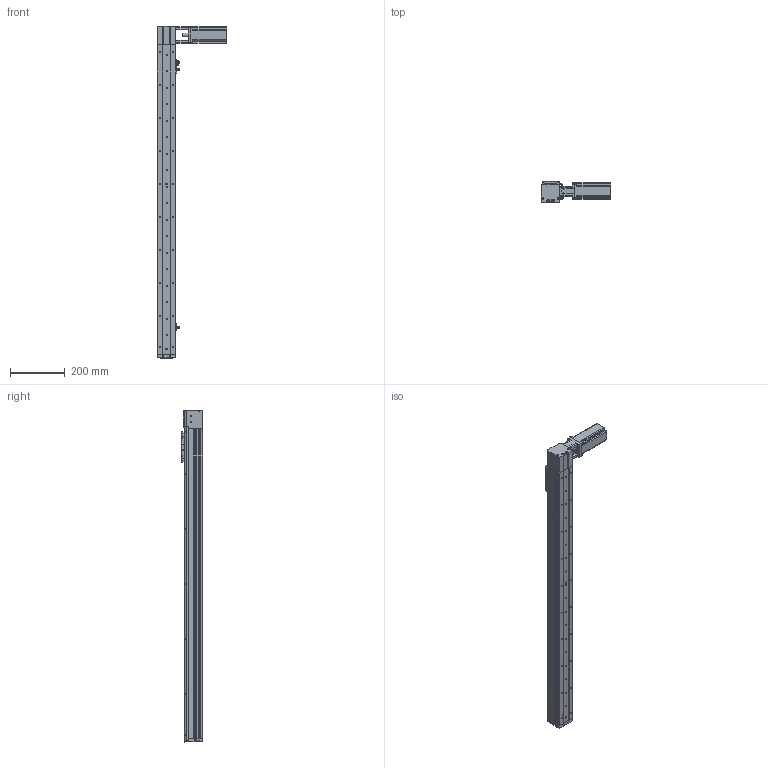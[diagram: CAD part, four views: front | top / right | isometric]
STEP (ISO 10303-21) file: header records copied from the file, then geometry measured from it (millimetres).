
FILE_DESCRIPTION (( 'STEP AP214' ), '1' );
FILE_NAME ('KSD68BS-S950-MRT-CR.STEP', '2019-11-07T06:45:33', ( '微软用户' ), ( '微软中国' ), 'SwSTEP 2.0', 'SolidWorks 2014', '' );
FILE_SCHEMA (( 'AUTOMOTIVE_DESIGN' ));
Length unit declared in the file: millimetre
Products named in the file (13): 100遵鎮湛假蚾啣1; KSD68BS 950行程盖板全封闭; 68遵裔啣揤啣1; 68宽单导轨全封闭丝杆传动安装板1防护罩; KSD68BS 950行程侧板全封闭; 68宽单导轨全封闭同步带端板; 68单导轨全封闭同步带电机座左; 68单导轨全封闭同步带安装板; 感应片68宽全封闭; U倰嫖萇EEㄜSX672; 台达ECMA－C20604AS伺服电机（400W); KSD68BS 950行程底板全封闭; KSD68BS-S950-MRT-CR
Assembly tree (16 placements, depth 2):
  KSD68BS-S950-MRT-CR
    KSD68BS 950行程底板全封闭
    台达ECMA－C20604AS伺服电机（400W)
    U倰嫖萇EEㄜSX672  x3
    感应片68宽全封闭
    68单导轨全封闭同步带安装板
    68单导轨全封闭同步带电机座左
    68宽单导轨全封闭同步带端板
    KSD68BS 950行程侧板全封闭  x2
    68宽单导轨全封闭丝杆传动安装板1防护罩
    68遵裔啣揤啣1  x2
    KSD68BS 950行程盖板全封闭
    100遵鎮湛假蚾啣1
Bounding box: 252.7 x 77 x 1208.1 mm (x, y, z)
Volume: 2417066 mm3; surface area: 902520.2 mm2
Topology: 17 solids, 17 shells, 1465 faces, 4174 edges, 2664 vertices
Faces by surface type: cylinder 695, plane 602, cone 168
Entity records: 46578 total; most frequent: CARTESIAN_POINT 8021, DIRECTION 6897, ORIENTED_EDGE 6600, EDGE_CURVE 3300, AXIS2_PLACEMENT_3D 2496, VERTEX_POINT 2162, VECTOR 1905, LINE 1905
